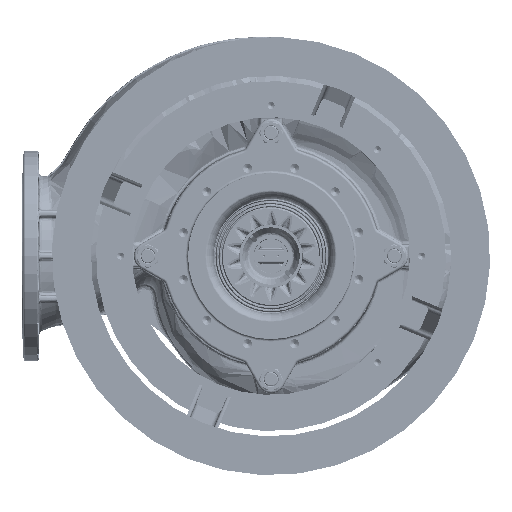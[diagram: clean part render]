
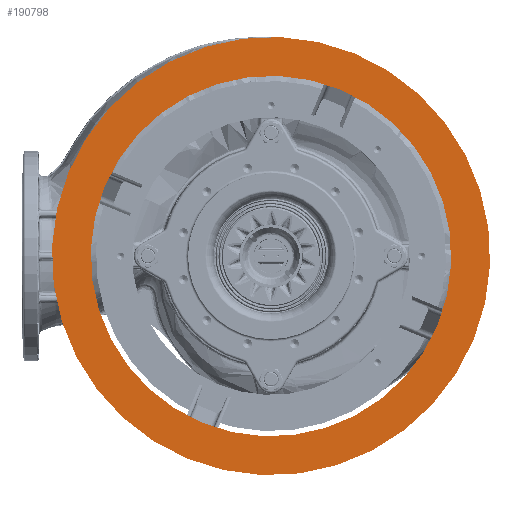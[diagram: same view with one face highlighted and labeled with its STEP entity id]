
A CAD part, front view. The second image highlights one B-rep face of the part: STEP entity #190798.
In plain terms, the highlighted planar face has unit normal (0, -1, 0).
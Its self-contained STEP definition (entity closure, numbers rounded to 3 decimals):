
#15572 = EDGE_CURVE ( 'NONE', #566084, #627525, #234614, .T. ) ;
#25908 = CARTESIAN_POINT ( 'NONE',  ( 0., -839.5, 0. ) ) ;
#38443 = EDGE_LOOP ( 'NONE', ( #814754, #198868 ) ) ;
#98031 = FACE_BOUND ( 'NONE', #38443, .T. ) ;
#100781 = AXIS2_PLACEMENT_3D ( 'NONE', #142182, #469998, #590518 ) ;
#128202 = VERTEX_POINT ( 'NONE', #228219 ) ;
#140862 = EDGE_CURVE ( 'NONE', #624518, #128202, #709929, .T. ) ;
#142182 = CARTESIAN_POINT ( 'NONE',  ( 0., -839.5, 0. ) ) ;
#142715 = DIRECTION ( 'NONE',  ( 0., -1., 0. ) ) ;
#145488 = CARTESIAN_POINT ( 'NONE',  ( 161.684, -839.5, 390.339 ) ) ;
#154252 = EDGE_LOOP ( 'NONE', ( #459459, #614607 ) ) ;
#173023 = AXIS2_PLACEMENT_3D ( 'NONE', #763401, #575896, #704529 ) ;
#176138 = DIRECTION ( 'NONE',  ( 0., -1., 0. ) ) ;
#190798 = ADVANCED_FACE ( 'NONE', ( #649544, #98031 ), #638847, .T. ) ;
#198868 = ORIENTED_EDGE ( 'NONE', *, *, #332382, .F. ) ;
#228219 = CARTESIAN_POINT ( 'NONE',  ( -132.982, -839.5, -321.048 ) ) ;
#234614 = CIRCLE ( 'NONE', #343616, 422.5 ) ;
#270236 = CARTESIAN_POINT ( 'NONE',  ( 132.982, -839.5, 321.048 ) ) ;
#320887 = CIRCLE ( 'NONE', #100781, 347.5 ) ;
#332382 = EDGE_CURVE ( 'NONE', #128202, #624518, #320887, .T. ) ;
#343616 = AXIS2_PLACEMENT_3D ( 'NONE', #361032, #176138, #560046 ) ;
#350661 = CARTESIAN_POINT ( 'NONE',  ( 161.684, -839.5, 390.339 ) ) ;
#361032 = CARTESIAN_POINT ( 'NONE',  ( 0., -839.5, 0. ) ) ;
#403033 = CARTESIAN_POINT ( 'NONE',  ( -161.684, -839.5, -390.339 ) ) ;
#414470 = EDGE_CURVE ( 'NONE', #627525, #566084, #572793, .T. ) ;
#459459 = ORIENTED_EDGE ( 'NONE', *, *, #414470, .T. ) ;
#469998 = DIRECTION ( 'NONE',  ( 0., -1., 0. ) ) ;
#482639 = DIRECTION ( 'NONE',  ( 0.383, 0., 0.924 ) ) ;
#560046 = DIRECTION ( 'NONE',  ( 0.383, 0., 0.924 ) ) ;
#566084 = VERTEX_POINT ( 'NONE', #403033 ) ;
#572793 = CIRCLE ( 'NONE', #173023, 422.5 ) ;
#575896 = DIRECTION ( 'NONE',  ( 0., -1., 0. ) ) ;
#585515 = DIRECTION ( 'NONE',  ( 0.383, 0., 0.924 ) ) ;
#590518 = DIRECTION ( 'NONE',  ( 0.383, 0., 0.924 ) ) ;
#614607 = ORIENTED_EDGE ( 'NONE', *, *, #15572, .T. ) ;
#624518 = VERTEX_POINT ( 'NONE', #270236 ) ;
#627525 = VERTEX_POINT ( 'NONE', #350661 ) ;
#638847 = PLANE ( 'NONE',  #820404 ) ;
#649544 = FACE_OUTER_BOUND ( 'NONE', #154252, .T. ) ;
#704529 = DIRECTION ( 'NONE',  ( 0.383, 0., 0.924 ) ) ;
#709929 = CIRCLE ( 'NONE', #770238, 347.5 ) ;
#763401 = CARTESIAN_POINT ( 'NONE',  ( 0., -839.5, 0. ) ) ;
#770238 = AXIS2_PLACEMENT_3D ( 'NONE', #25908, #793487, #482639 ) ;
#793487 = DIRECTION ( 'NONE',  ( 0., -1., 0. ) ) ;
#814754 = ORIENTED_EDGE ( 'NONE', *, *, #140862, .F. ) ;
#820404 = AXIS2_PLACEMENT_3D ( 'NONE', #145488, #142715, #585515 ) ;
